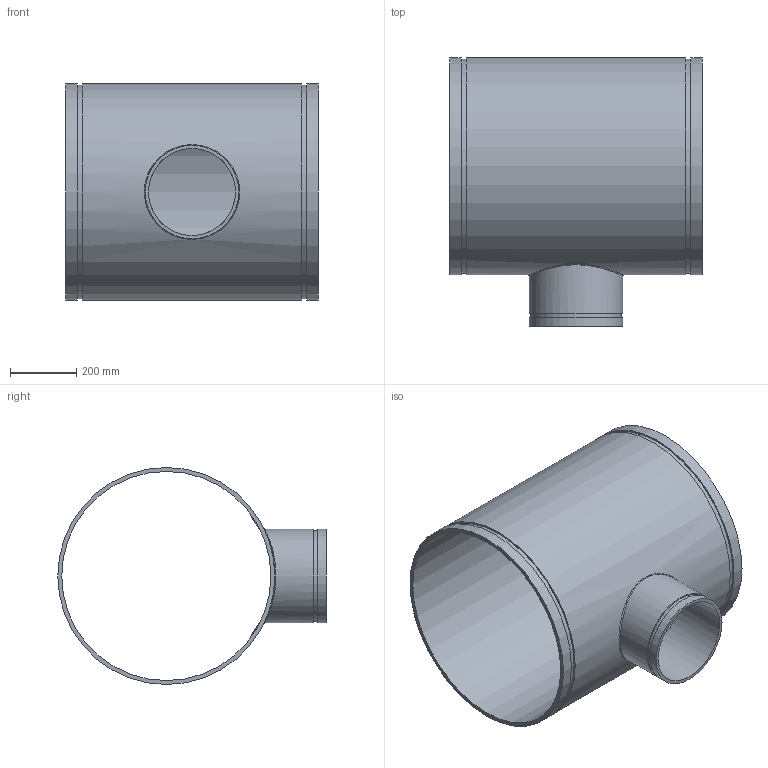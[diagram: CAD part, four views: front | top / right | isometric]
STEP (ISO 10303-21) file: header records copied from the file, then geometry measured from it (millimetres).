
FILE_DESCRIPTION(/* description */ ('VIC REDUCING TEE No 25-C','CAx-IF Rec.Pracs.---Representation and Presentation of Product Manufacturing Information (PMI)---4.0---2014-10-13'),/* implementation_level */ '2;1');
FILE_NAME(/* name */ 'C:\Users\Vjadhav\AppData\Roaming\Autodesk\ApplicationPlugins\Back Up\Victaulic_AWWA_Tee Reducing_No 25-C (DRG)\Victaulic_AWWA_Tee Reducing_No 25-C (DRG)_24.0x10.0 (600x250).stp',/* time_stamp */ '2020-08-18T18:18:54+06:00',/* author */ ('CORINNE GRAY'),/* organization */ ('Victaulic'),/* preprocessor_version */ 'ST-DEVELOPER v17.2',/* originating_system */ 'Autodesk Inventor 2019',/* authorisation */ '');
FILE_SCHEMA (('AP242_MANAGED_MODEL_BASED_3D_ENGINEERING_MIM_LF { 1 0 10303 442 1 1 4 }'));
Length unit declared in the file: inch
Products named in the file (1): 25C-24.0x10.0
Bounding box: 762 x 810.26 x 655.32 mm (x, y, z)
Volume: 18763136.7 mm3; surface area: 3363228.2 mm2
Topology: 1 solids, 1 shells, 20 faces, 44 edges, 33 vertices
Faces by surface type: cylinder 10, plane 9, bspline 1
Full cylindrical faces by diameter (mm): 262.636 x1, 274.65 x1, 281.94 x2, 631.444 x1, 645.312 x2, 655.32 x3
Entity records: 1003 total; most frequent: CARTESIAN_POINT 379, DIRECTION 135, ORIENTED_EDGE 90, AXIS2_PLACEMENT_3D 62, EDGE_CURVE 45, VERTEX_POINT 34, EDGE_LOOP 31, CIRCLE 29
